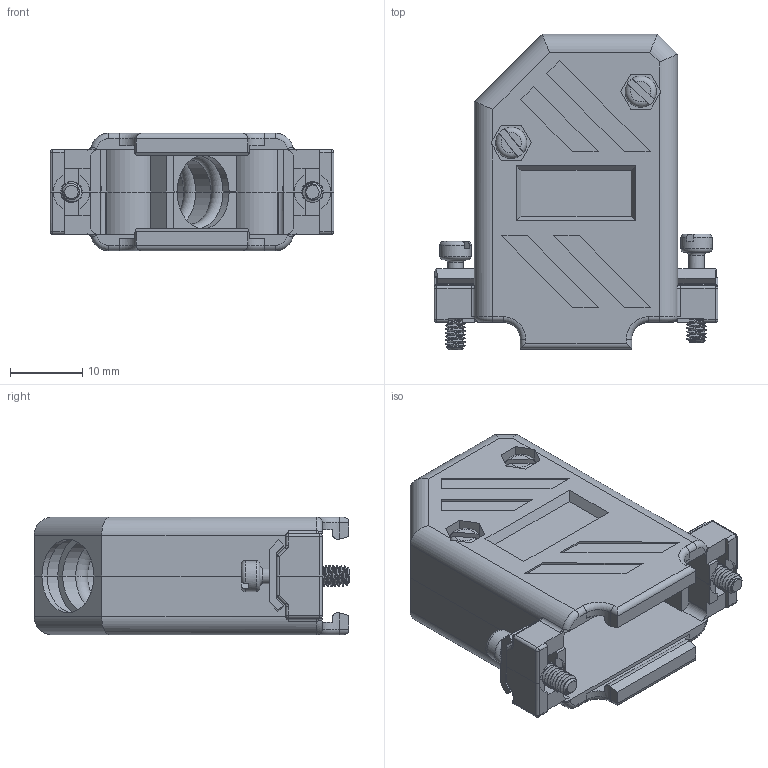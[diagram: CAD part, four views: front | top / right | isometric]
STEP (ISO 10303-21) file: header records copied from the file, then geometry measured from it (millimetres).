
FILE_DESCRIPTION((''),'2;1');
FILE_NAME('D:\_NTC CAD MODELS & ASSEMBLIES - STEP\STEP FILES\covers - ntc\cpp 45d series -\cpp_45d_15 -\cpp_45d_15_assy.stp','2016-04-28T16:42:52',('j_dipietro'),(''),'Autodesk Inventor 2012','Autodesk Inventor 2012','');
FILE_SCHEMA(('CONFIG_CONTROL_DESIGN'));
Length unit declared in the file: inch
Products named in the file (7): cpp_45d_15_assy; cpp_45d_15_top; cpp_45d_15_bot; b71014144; b71314144; b72114064; b73190004
Assembly tree (10 placements, depth 2):
  cpp_45d_15_assy
    cpp_45d_15_top
    cpp_45d_15_bot
    b71014144  x2
    b71314144  x2
    b72114064  x2
    b73190004  x2
Bounding box: 39.24 x 43.64 x 16.26 mm (x, y, z)
Volume: 9219.6 mm3; surface area: 10233.9 mm2
Topology: 10 solids, 10 shells, 564 faces, 1488 edges, 961 vertices
Faces by surface type: plane 342, cylinder 142, torus 52, sphere 12, bspline 12, cone 4
Full cylindrical faces by diameter (mm): 2.159 x2, 2.972 x2, 3.048 x4, 4.318 x4
Entity records: 19060 total; most frequent: CARTESIAN_POINT 6382, ORIENTED_EDGE 2596, DIRECTION 2575, EDGE_CURVE 1298, VECTOR 909, LINE 909, VERTEX_POINT 844, AXIS2_PLACEMENT_3D 833
